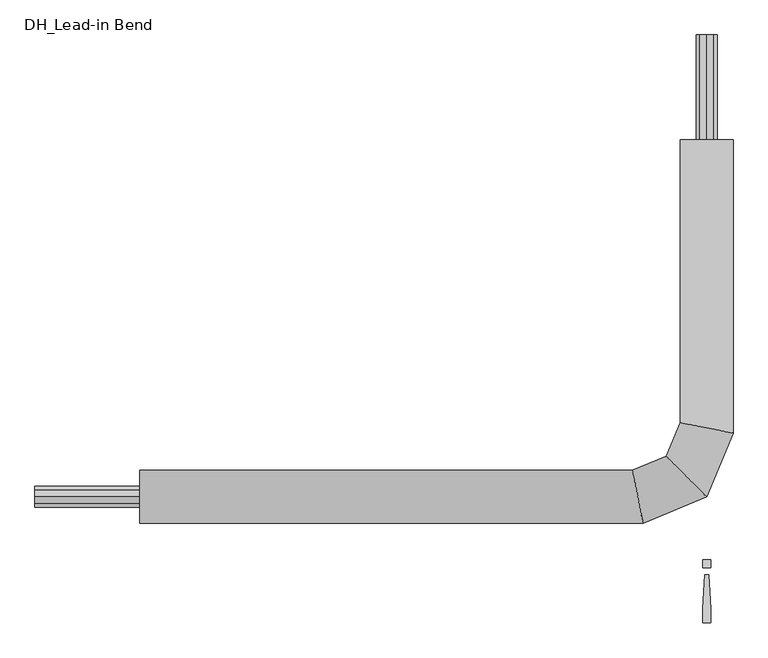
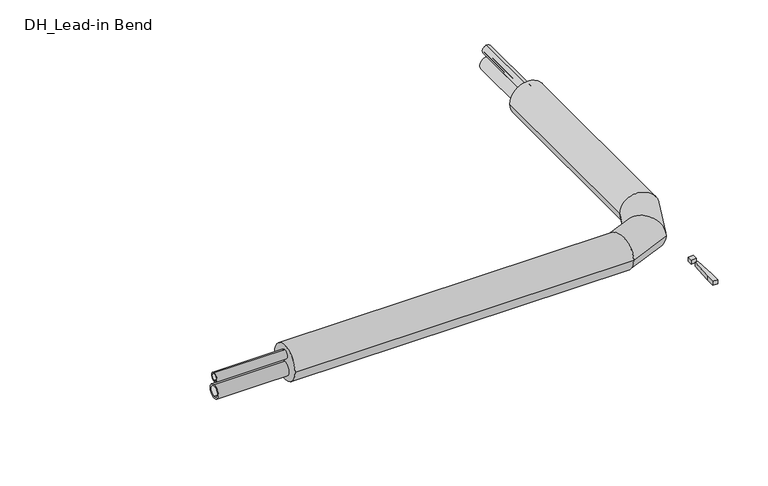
"""IFC4 building model written with IfcOpenShell, lengths in millimetres: pipe fitting geometry, DH_Lead-in Bend : RVT/RVX/RTX DUO 7.4 DW Horizontal."""

from ifc_helpers import new_model, si_unit, point, frame, frame_2d, origin, origin_with_axes, place, context, project, spatial, polyline, circle_curve, ellipse_curve, trimmed, segment, composite_curve, outline, extrude, source, transform, mapped, element, save
from ifc_brep_helpers import plane_surface, cylinder_surface, advanced_brep


def dh_lead_in_bend_9d490864(model_context):
    return source(origin(), model_context, "Body", "SolidModel", [
        extrude(outline(composite_curve([segment(trimmed(circle_curve(frame_2d((0.0, -22.0)), 25.0), [point((0.0, 3.0))], [point((0.0, -47.0))], False, "CARTESIAN"), True, "CONTINUOUS"), segment(trimmed(circle_curve(frame_2d((0.0, -22.0)), 25.0), [point((0.0, -47.0))], [point((0.0, 3.0))], False, "CARTESIAN"), True, "CONTINUOUS")], self_intersect=False), holes=[composite_curve([segment(trimmed(circle_curve(frame_2d((0.0, -22.0)), 18.1), [point((0.0, -3.9))], [point((0.0, -40.1))], True, "CARTESIAN"), True, "CONTINUOUS"), segment(trimmed(circle_curve(frame_2d((0.0, -22.0)), 18.1), [point((0.0, -40.1))], [point((0.0, -3.9))], True, "CARTESIAN"), True, "CONTINUOUS")], self_intersect=False)]), frame((-1600.0, 0.0, 0.0), z_axis=(1.0, 0.0, 0.0), x_axis=(0.0, 1.0, 0.0)), (0.0, 0.0, 1.0), 250.0),
        extrude(outline(composite_curve([segment(trimmed(circle_curve(frame_2d((31.0, 0.0)), 16.0), [point((15.0, 0.0))], [point((47.0, 0.0))], False, "CARTESIAN"), True, "CONTINUOUS"), segment(trimmed(circle_curve(frame_2d((31.0, 0.0)), 16.0), [point((47.0, 0.0))], [point((15.0, 0.0))], False, "CARTESIAN"), True, "CONTINUOUS")], self_intersect=False), holes=[composite_curve([segment(trimmed(circle_curve(frame_2d((31.0, 0.0)), 11.6), [point((19.4, 0.0))], [point((42.6, 0.0))], True, "CARTESIAN"), True, "CONTINUOUS"), segment(trimmed(circle_curve(frame_2d((31.0, 0.0)), 11.6), [point((42.6, 0.0))], [point((19.4, 0.0))], True, "CARTESIAN"), True, "CONTINUOUS")], self_intersect=False)]), frame((0.0, 850.0, 0.0), z_axis=(0.0, 1.0, 0.0), x_axis=(0.0, 0.0, 1.0)), (0.0, 0.0, 1.0), 250.0),
        advanced_brep(
        [(-1350.0, -63.0, 0.0), (-1350.0, 63.0, 0.0), (-151.5685209, -63.0, 0.0), (-176.6314791, 63.0, 0.0), (63.0, 850.0, 0.0), (-63.0, 850.0, 0.0), (-63.0, 176.6314791, 0.0), (63.0, 151.5685209, 0.0), (0.1543353, -0.1543353, 0.0), (-96.2818897, 96.2818897, 0.0)],
        [
            (0, 1, circle_curve(frame((-1350.0, 0.0, 0.0), z_axis=(-1.0, 0.0, 0.0), x_axis=(0.0, 1.0, 0.0)), 63.0)),
            (1, 0, circle_curve(frame((-1350.0, 0.0, 0.0), z_axis=(-1.0, 0.0, 0.0), x_axis=(0.0, 1.0, 0.0)), 63.0)),
            (0, 2),
            (2, 3, ellipse_curve(frame((-164.1, 0.0, 0.0), z_axis=(-0.9807852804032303, -0.19509032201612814, 0.0), x_axis=(-0.19509032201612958, 0.9807852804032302, 0.0)), 64.234243, 63.0)),
            (3, 1),
            (3, 2, ellipse_curve(frame((-164.1, 0.0, 0.0), z_axis=(-0.9807852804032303, -0.19509032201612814, 0.0), x_axis=(-0.19509032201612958, 0.9807852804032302, 0.0)), 64.234243, 63.0)),
            (4, 5, circle_curve(frame((0.0, 850.0, 0.0), z_axis=(0.0, 1.0, 0.0), x_axis=(-1.0, 0.0, 0.0)), 63.0)),
            (5, 4, circle_curve(frame((0.0, 850.0, 0.0), z_axis=(0.0, 1.0, 0.0), x_axis=(-1.0, 0.0, 0.0)), 63.0)),
            (6, 7, ellipse_curve(frame((0.0, 164.1, 0.0), z_axis=(0.19509032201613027, 0.9807852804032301, 0.0), x_axis=(0.9807852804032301, -0.1950903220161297, 0.0)), 64.234243, 63.0)),
            (7, 4),
            (5, 6),
            (7, 6, ellipse_curve(frame((0.0, 164.1, 0.0), z_axis=(0.19509032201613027, 0.9807852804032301, 0.0), x_axis=(0.9807852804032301, -0.1950903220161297, 0.0)), 64.234243, 63.0)),
            (2, 8),
            (8, 9, ellipse_curve(frame((-48.0637772, 48.0637772, 0.0), z_axis=(-0.707106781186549, -0.7071067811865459, 0.0), x_axis=(-0.7071067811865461, 0.7071067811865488, 0.0)), 68.1907086, 63.0)),
            (9, 3),
            (9, 8, ellipse_curve(frame((-48.0637772, 48.0637772, 0.0), z_axis=(-0.707106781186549, -0.7071067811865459, 0.0), x_axis=(-0.7071067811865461, 0.7071067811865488, 0.0)), 68.1907086, 63.0)),
            (8, 7),
            (6, 9),
        ],
        [
            plane_surface(frame((-1350.0, 0.0, 0.0), z_axis=(-1.0, 0.0, 0.0), x_axis=(0.0, 0.0, 1.0))),
            cylinder_surface(frame((-1350.0, 0.0, 0.0), z_axis=(-1.0, 0.0, 0.0), x_axis=(0.0, 1.0, 0.0)), 63.0),
            plane_surface(frame((0.0, 850.0, 0.0), z_axis=(0.0, 1.0, 0.0), x_axis=(0.0, 0.0, 1.0))),
            cylinder_surface(frame((0.0, 164.1, 0.0), z_axis=(0.0, -1.0, 0.0), x_axis=(-1.0, 0.0, 0.0)), 63.0),
            cylinder_surface(frame((-164.1, 0.0, 0.0), z_axis=(-0.9238795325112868, -0.3826834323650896, 0.0), x_axis=(-0.3826834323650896, 0.9238795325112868, 0.0)), 63.0),
            cylinder_surface(frame((-48.0637772, 48.0637772, 0.0), z_axis=(-0.3826834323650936, -0.9238795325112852, 0.0), x_axis=(-0.9238795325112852, 0.3826834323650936, 0.0)), 63.0),
        ],
        [
            (0, [[1, 2]]),
            (1, [[-1, 3, 4, 5]]),
            (1, [[-2, -5, 6, -3]]),
            (2, [[7, 8]]),
            (3, [[9, 10, -8, 11]]),
            (3, [[12, -11, -7, -10]]),
            (4, [[-4, 13, 14, 15]]),
            (4, [[-6, -15, 16, -13]]),
            (5, [[-14, 17, -9, 18]]),
            (5, [[-16, -18, -12, -17]]),
        ],
    ),
        extrude(outline(composite_curve([segment(trimmed(circle_curve(frame_2d((0.0, 31.0)), 16.0), [point((0.0, 15.0))], [point((0.0, 47.0))], False, "CARTESIAN"), True, "CONTINUOUS"), segment(trimmed(circle_curve(frame_2d((0.0, 31.0)), 16.0), [point((0.0, 47.0))], [point((0.0, 15.0))], False, "CARTESIAN"), True, "CONTINUOUS")], self_intersect=False), holes=[composite_curve([segment(trimmed(circle_curve(frame_2d((0.0, 31.0)), 11.6), [point((0.0, 19.4))], [point((0.0, 42.6))], True, "CARTESIAN"), True, "CONTINUOUS"), segment(trimmed(circle_curve(frame_2d((0.0, 31.0)), 11.6), [point((0.0, 42.6))], [point((0.0, 19.4))], True, "CARTESIAN"), True, "CONTINUOUS")], self_intersect=False)]), frame((-1600.0, 0.0, 0.0), z_axis=(1.0, 0.0, 0.0), x_axis=(0.0, 1.0, 0.0)), (0.0, 0.0, 1.0), 250.0),
        extrude(outline(composite_curve([segment(trimmed(circle_curve(frame_2d((-22.0, 0.0)), 25.0), [point((3.0, 0.0))], [point((-47.0, 0.0))], False, "CARTESIAN"), True, "CONTINUOUS"), segment(trimmed(circle_curve(frame_2d((-22.0, 0.0)), 25.0), [point((-47.0, 0.0))], [point((3.0, 0.0))], False, "CARTESIAN"), True, "CONTINUOUS")], self_intersect=False), holes=[composite_curve([segment(trimmed(circle_curve(frame_2d((-22.0, 0.0)), 18.1), [point((-3.9, 0.0))], [point((-40.1, 0.0))], True, "CARTESIAN"), True, "CONTINUOUS"), segment(trimmed(circle_curve(frame_2d((-22.0, 0.0)), 18.1), [point((-40.1, 0.0))], [point((-3.9, 0.0))], True, "CARTESIAN"), True, "CONTINUOUS")], self_intersect=False)]), frame((0.0, 850.0, 0.0), z_axis=(0.0, 1.0, 0.0), x_axis=(0.0, 0.0, 1.0)), (0.0, 0.0, 1.0), 250.0),
        extrude(outline(polyline([(4.7088895, -185.3166715), (9.4177791, -266.6553807), (9.4177791, -300.6844652), (-9.4177791, -300.6844652), (-9.4177791, -266.6553807), (-4.7088895, -185.3166715), (4.7088895, -185.3166715)])), origin_with_axes(), (0.0, 0.0, 1.0), 15.0),
        extrude(outline(polyline([(9.4177791, -150.0), (9.4177791, -168.8355582), (-9.4177791, -168.8355582), (-9.4177791, -150.0), (9.4177791, -150.0)])), origin_with_axes(), (0.0, 0.0, 1.0), 15.0),
    ])


if __name__ == "__main__":
    model = new_model("IFC4")
    model_context = context("Model", 3, world=origin())
    ifc_project = project(units=[si_unit("LENGTHUNIT", "METRE", prefix="MILLI")], contexts=[model_context])
    site = spatial("IfcSite", under=ifc_project)
    building = spatial("IfcBuilding", under=site)
    placement = place(None, origin())
    dh_lead_in_bend_shape = dh_lead_in_bend_9d490864(model_context)
    element("IfcPipeFitting", 1, ObjectType="DH_Lead-in Bend : RVT/RVX/RTX DUO 7.4 DW Horizontal", at=placement, inside=building, context=model_context, shape_type="MappedRepresentation", body=[
        mapped(dh_lead_in_bend_shape, transform((0.0, 0.0, 0.0), x_axis=(1.0, 0.0, 0.0), y_axis=(0.0, 1.0, 0.0), z_axis=(0.0, 0.0, 1.0))),
    ])
    save(model, "model.ifc")
